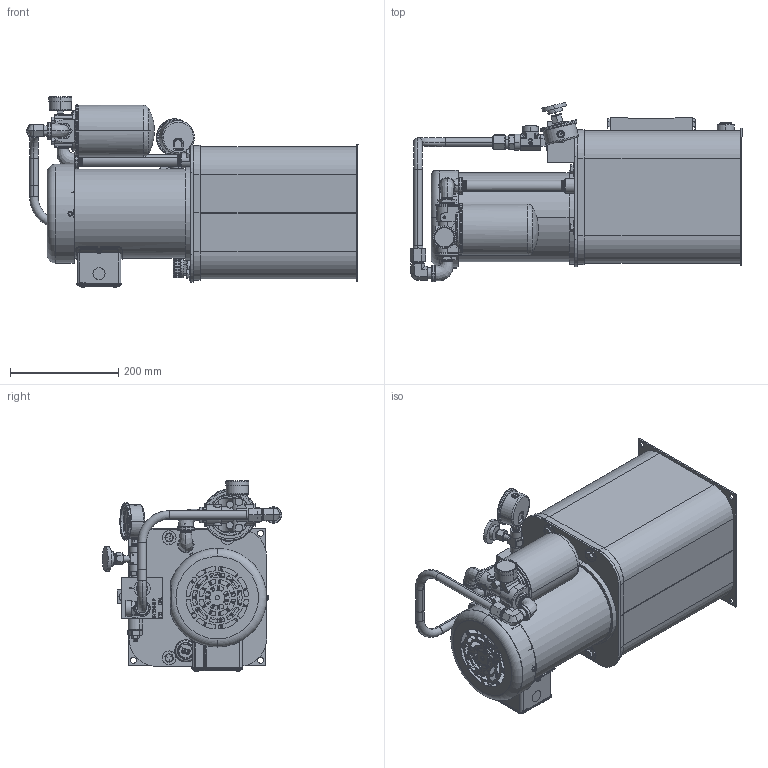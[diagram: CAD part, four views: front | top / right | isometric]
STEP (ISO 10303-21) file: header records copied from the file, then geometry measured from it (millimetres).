
FILE_DESCRIPTION (( 'STEP AP214' ), '1' );
FILE_NAME ('T3V-10--NN-F1-059.STEP', '2021-09-01T14:33:55', ( '' ), ( '' ), 'SwSTEP 2.0', 'SolidWorks 2020', '' );
FILE_SCHEMA (( 'AUTOMOTIVE_DESIGN' ));
Length unit declared in the file: inch
Products named in the file (1): T3V-10--NN-F1-059
Bounding box: 613.86 x 331.66 x 351.82 mm (x, y, z)
Surface area: 1067143.5 mm2 (no closed solid volume)
Topology: 0 solids, 133 shells, 1792 faces, 7817 edges, 5978 vertices
Faces by surface type: plane 611, cylinder 529, cone 342, bspline 181, torus 117, sphere 12
Entity records: 152465 total; most frequent: CARTESIAN_POINT 70251, ORIENTED_EDGE 11314, DIRECTION 11074, EDGE_CURVE 7815, VERTEX_POINT 5978, AXIS2_PLACEMENT_3D 3806, LINE 3462, VECTOR 3462
